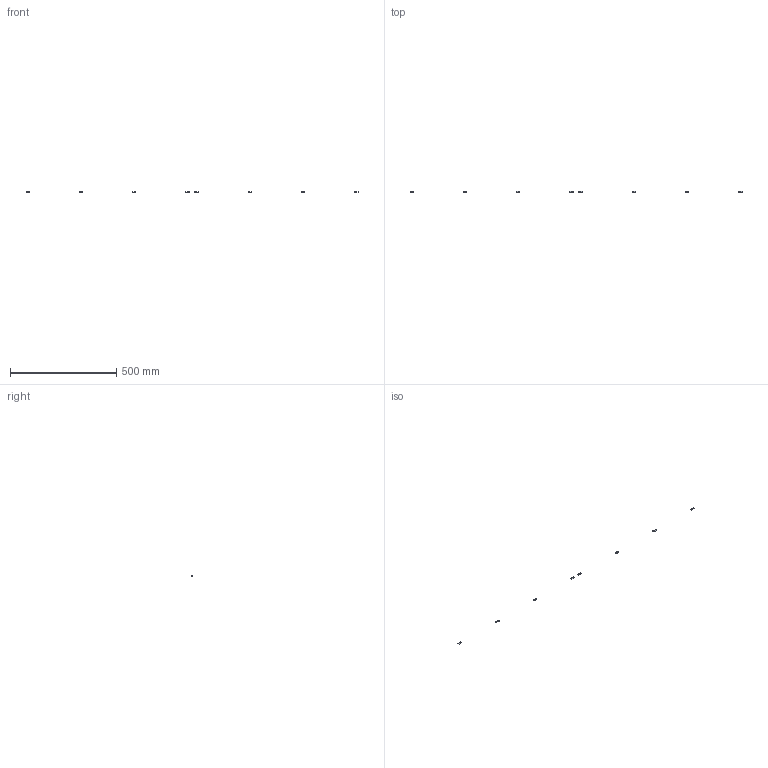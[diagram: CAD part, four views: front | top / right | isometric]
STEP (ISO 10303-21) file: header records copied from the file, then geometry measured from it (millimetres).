
FILE_DESCRIPTION(/* description */ (''),/* implementation_level */ '2;1');
FILE_NAME(/* name */ '4.frame-door#4.7#HNTPZ5-5',/* time_stamp */ '2014-12-01T20:13:00+01:00',/* author */ (''),/* organization */ (''),/* preprocessor_version */ 'ST-DEVELOPER v14',/* originating_system */ '',/* authorisation */ '');
FILE_SCHEMA (('AUTOMOTIVE_DESIGN'));
Length unit declared in the file: millimetre
Products named in the file (2): Document; nut tslot, post, M5
Assembly tree (4 placements, depth 2):
  Document
    nut tslot, post, M5  x4
Bounding box: 1562 x 8.3 x 3.8 mm (x, y, z)
Volume: 2520.2 mm3; surface area: 3356.3 mm2
Topology: 8 solids, 8 shells, 104 faces, 288 edges, 192 vertices
Faces by surface type: plane 88, bspline 16
Entity records: 4833 total; most frequent: CARTESIAN_POINT 2287, B_SPLINE_CURVE_WITH_KNOTS 500, ORIENTED_EDGE 360, PCURVE 360, DEFINITIONAL_REPRESENTATION 360, SURFACE_CURVE 180, EDGE_CURVE 180, VERTEX_POINT 120
